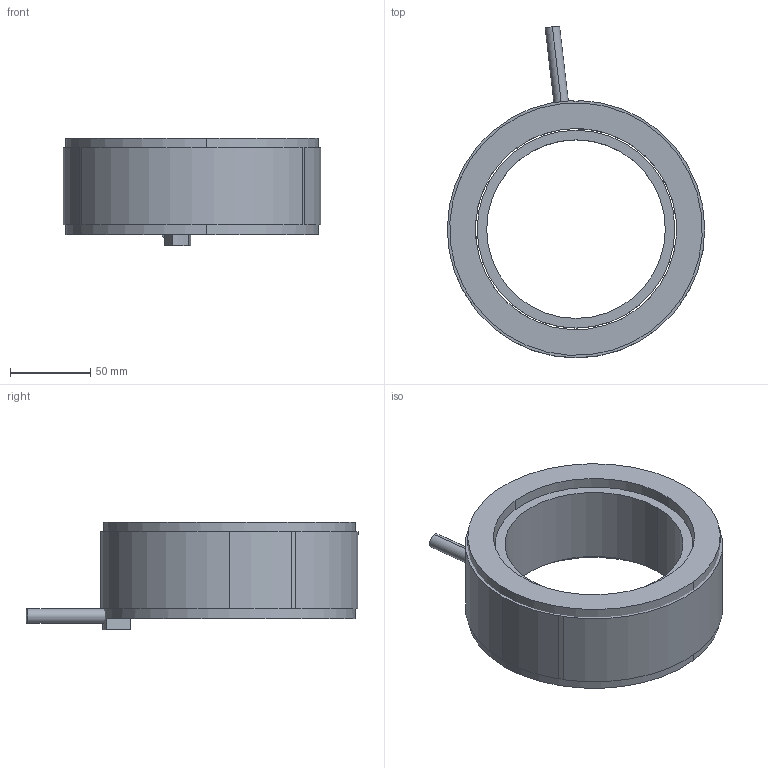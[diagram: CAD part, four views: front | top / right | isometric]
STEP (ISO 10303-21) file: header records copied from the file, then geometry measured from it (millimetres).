
FILE_DESCRIPTION (( 'STEP AP203' ), '1' );
FILE_NAME ('TM160-60 KIT 3D.STEP', '2021-06-21T07:03:25', ( '' ), ( '' ), 'SwSTEP 2.0', 'SolidWorks 2021', '' );
FILE_SCHEMA (( 'CONFIG_CONTROL_DESIGN' ));
Length unit declared in the file: millimetre
Products named in the file (1): TM160-60 KIT 3D
Bounding box: 160 x 206.33 x 67 mm (x, y, z)
Volume: 648829.4 mm3; surface area: 162548.6 mm2
Topology: 4 solids, 4 shells, 156 faces, 439 edges, 290 vertices
Faces by surface type: plane 84, cylinder 72
Entity records: 5158 total; most frequent: DIRECTION 901, CARTESIAN_POINT 886, ORIENTED_EDGE 878, EDGE_CURVE 439, AXIS2_PLACEMENT_3D 305, LINE 291, VECTOR 291, VERTEX_POINT 290
